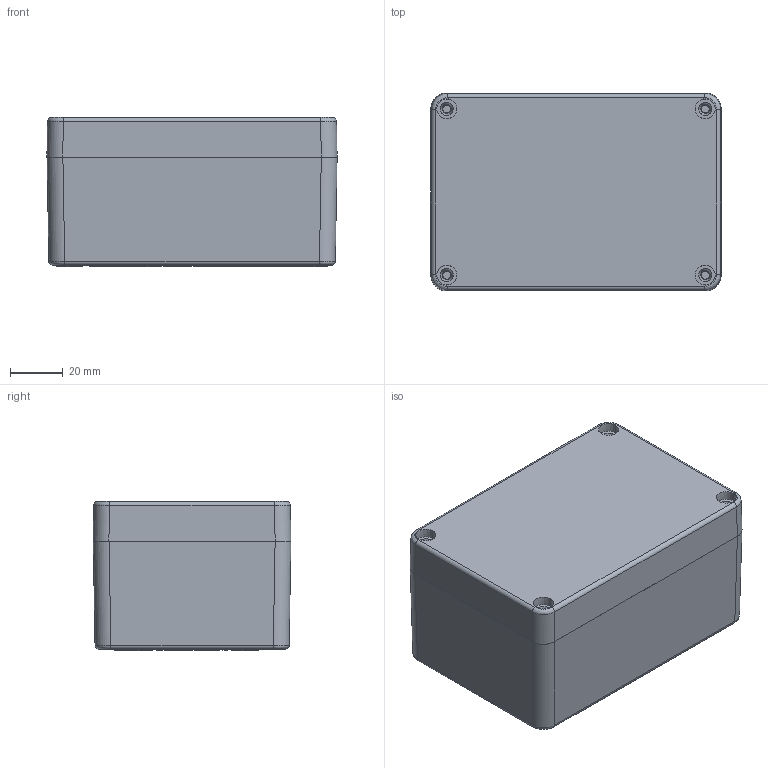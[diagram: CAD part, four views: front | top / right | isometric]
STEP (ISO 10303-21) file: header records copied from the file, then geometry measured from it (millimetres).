
FILE_DESCRIPTION (( 'STEP AP203' ), '1' );
FILE_NAME ('GRP ASSY 1107555.STEP', '2024-08-26T09:56:07', ( '' ), ( '' ), 'SwSTEP 2.0', 'SolidWorks 2018', '' );
FILE_SCHEMA (( 'CONFIG_CONTROL_DESIGN' ));
Length unit declared in the file: millimetre
Products named in the file (6): M3 BOTTOM INSERT; M4 BOTTOM INSERT; GRP BASE 1107555; GRP ASSY 1107555; M4 SS TOP INSERT; GRP LID 1107555
Assembly tree (12 placements, depth 2):
  GRP ASSY 1107555
    GRP BASE 1107555
    M3 BOTTOM INSERT  x4
    M4 BOTTOM INSERT  x2
    M4 SS TOP INSERT  x4
    GRP LID 1107555
Bounding box: 110 x 75 x 56.5 mm (x, y, z)
Volume: 176751.2 mm3; surface area: 77504.7 mm2
Topology: 12 solids, 12 shells, 1398 faces, 3550 edges, 2236 vertices
Faces by surface type: cylinder 520, plane 423, bspline 229, cone 186, torus 40
Entity records: 38622 total; most frequent: CARTESIAN_POINT 17511, ORIENTED_EDGE 4574, DIRECTION 3727, EDGE_CURVE 2287, VERTEX_POINT 1436, AXIS2_PLACEMENT_3D 1309, VECTOR 1109, LINE 1109
